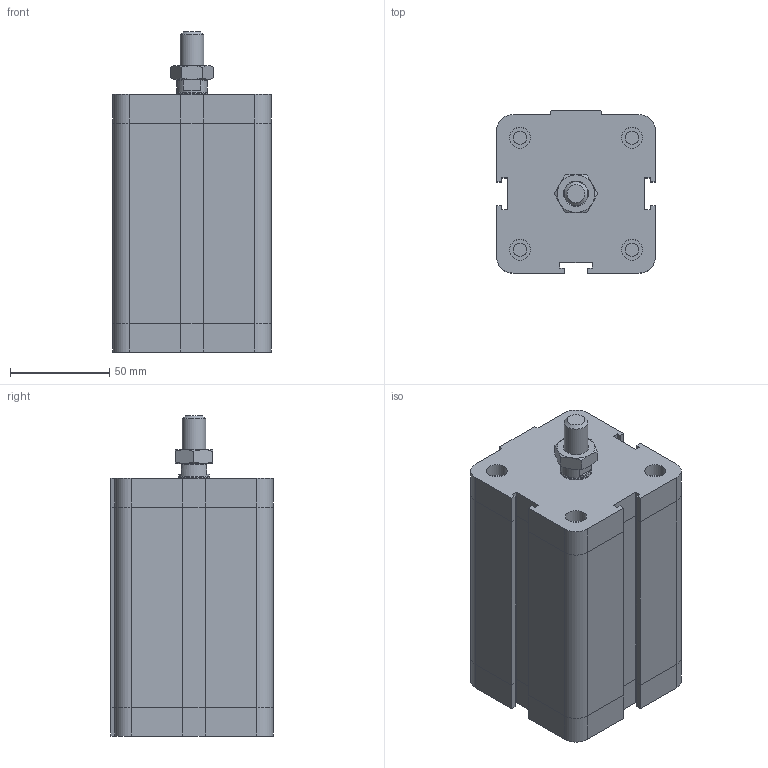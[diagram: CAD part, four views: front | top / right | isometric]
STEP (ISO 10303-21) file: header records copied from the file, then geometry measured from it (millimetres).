
FILE_DESCRIPTION((''),'2;1');
FILE_NAME('I:\Area Tecnica\Disegni\VARIE-3D\Componenti\EUROPE\15##_###_####_02_#\1561_63_0080_02_1.stp','2008-12-19T16:06:36',('rivolro1'),(''),'Autodesk Inventor 2009','Autodesk Inventor 2009','');
FILE_SCHEMA(('AUTOMOTIVE_DESIGN { 1 0 10303 214 1 1 1 1 }'));
Length unit declared in the file: millimetre
Products named in the file (4): 1561_63_0080_02_1; 1561_63_0080_01_1_C; 1561_63_0080_02_1_S; DBFM12
Assembly tree (3 placements, depth 2):
  1561_63_0080_02_1
    1561_63_0080_01_1_C
    1561_63_0080_02_1_S
    DBFM12
Bounding box: 80 x 82 x 161.5 mm (x, y, z)
Volume: 796821.3 mm3; surface area: 77119.9 mm2
Topology: 3 solids, 3 shells, 187 faces, 401 edges, 240 vertices
Faces by surface type: plane 121, bspline 24, cylinder 24, cone 18
Full cylindrical faces by diameter (mm): 6.647 x4, 10.5 x4, 10.8 x1, 12 x1, 15.6 x1, 16 x1
Entity records: 5080 total; most frequent: CARTESIAN_POINT 1096, DIRECTION 758, ORIENTED_EDGE 724, EDGE_CURVE 362, AXIS2_PLACEMENT_3D 254, VECTOR 250, LINE 250, EDGE_LOOP 238
